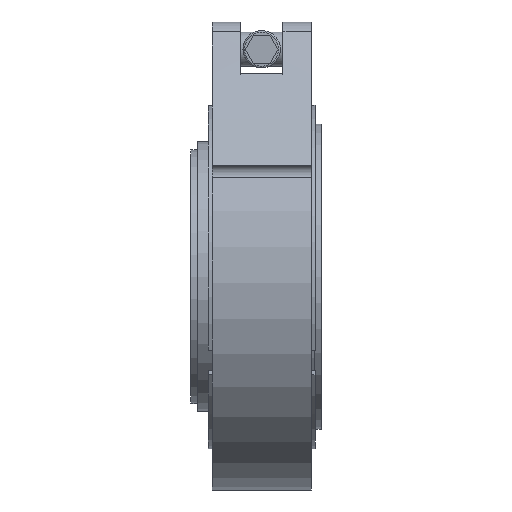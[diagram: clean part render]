
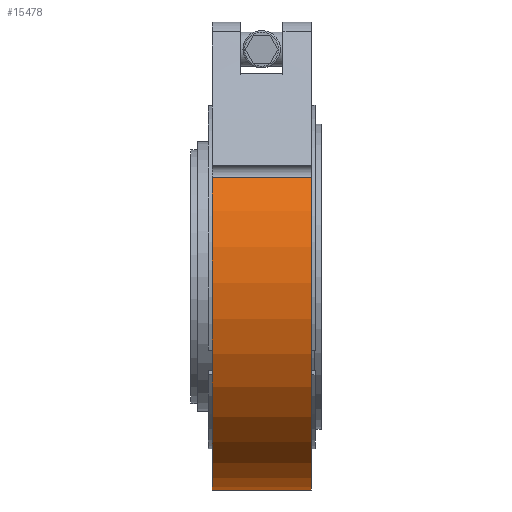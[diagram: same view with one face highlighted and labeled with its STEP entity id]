
A CAD part, front view. The second image highlights one B-rep face of the part: STEP entity #15478.
In plain terms, the highlighted cylindrical face has radius 47.714 mm (diameter 95.428 mm), a partial arc.
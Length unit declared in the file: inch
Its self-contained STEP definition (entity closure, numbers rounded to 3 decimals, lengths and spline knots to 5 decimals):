
#1461 = DIRECTION ( 'NONE',  ( -1., 0., 0. ) ) ;
#2020 = EDGE_CURVE ( 'NONE', #23141, #27749, #24582, .T. ) ;
#2919 = EDGE_CURVE ( 'NONE', #43221, #23141, #29962, .T. ) ;
#3159 = DIRECTION ( 'NONE',  ( -1., 0., 0. ) ) ;
#4225 = DIRECTION ( 'NONE',  ( -1., 0., 0. ) ) ;
#5524 = CARTESIAN_POINT ( 'NONE',  ( -0.4375, -1.66384, -0.87201 ) ) ;
#5747 = ORIENTED_EDGE ( 'NONE', *, *, #2919, .T. ) ;
#7199 = ORIENTED_EDGE ( 'NONE', *, *, #23232, .T. ) ;
#7432 = AXIS2_PLACEMENT_3D ( 'NONE', #30239, #3159, #40394 ) ;
#10429 = DIRECTION ( 'NONE',  ( 0., 0., 1. ) ) ;
#10503 = EDGE_CURVE ( 'NONE', #27708, #27749, #14254, .T. ) ;
#12424 = ORIENTED_EDGE ( 'NONE', *, *, #10503, .F. ) ;
#12700 = FACE_OUTER_BOUND ( 'NONE', #18290, .T. ) ;
#14254 = CIRCLE ( 'NONE', #39725, 1.8785 ) ;
#15478 = ADVANCED_FACE ( 'NONE', ( #12700 ), #26472, .T. ) ;
#15682 = LINE ( 'NONE', #29673, #43378 ) ;
#16426 = DIRECTION ( 'NONE',  ( -1., 0., 0. ) ) ;
#18290 = EDGE_LOOP ( 'NONE', ( #12424, #7199, #5747, #36811 ) ) ;
#23141 = VERTEX_POINT ( 'NONE', #27554 ) ;
#23232 = EDGE_CURVE ( 'NONE', #27708, #43221, #15682, .T. ) ;
#24582 = LINE ( 'NONE', #42276, #39078 ) ;
#25689 = DIRECTION ( 'NONE',  ( 1., 0., 0. ) ) ;
#26472 = CYLINDRICAL_SURFACE ( 'NONE', #7432, 1.8785 ) ;
#27554 = CARTESIAN_POINT ( 'NONE',  ( 0.4375, 1.66384, -0.87201 ) ) ;
#27708 = VERTEX_POINT ( 'NONE', #5524 ) ;
#27749 = VERTEX_POINT ( 'NONE', #42803 ) ;
#29673 = CARTESIAN_POINT ( 'NONE',  ( -1.4127, -1.66384, -0.87201 ) ) ;
#29962 = CIRCLE ( 'NONE', #41970, 1.8785 ) ;
#30239 = CARTESIAN_POINT ( 'NONE',  ( -1.4127, 0., 0. ) ) ;
#34429 = DIRECTION ( 'NONE',  ( 0., 0., 1. ) ) ;
#36811 = ORIENTED_EDGE ( 'NONE', *, *, #2020, .T. ) ;
#37005 = CARTESIAN_POINT ( 'NONE',  ( 0.4375, -1.66384, -0.87201 ) ) ;
#39078 = VECTOR ( 'NONE', #1461, 39.37008 ) ;
#39725 = AXIS2_PLACEMENT_3D ( 'NONE', #40630, #4225, #34429 ) ;
#40394 = DIRECTION ( 'NONE',  ( 0., 0., 1. ) ) ;
#40630 = CARTESIAN_POINT ( 'NONE',  ( -0.4375, 0., 0. ) ) ;
#40821 = CARTESIAN_POINT ( 'NONE',  ( 0.4375, 0., 0. ) ) ;
#41970 = AXIS2_PLACEMENT_3D ( 'NONE', #40821, #16426, #10429 ) ;
#42276 = CARTESIAN_POINT ( 'NONE',  ( -1.4127, 1.66384, -0.87201 ) ) ;
#42803 = CARTESIAN_POINT ( 'NONE',  ( -0.4375, 1.66384, -0.87201 ) ) ;
#43221 = VERTEX_POINT ( 'NONE', #37005 ) ;
#43378 = VECTOR ( 'NONE', #25689, 39.37008 ) ;
